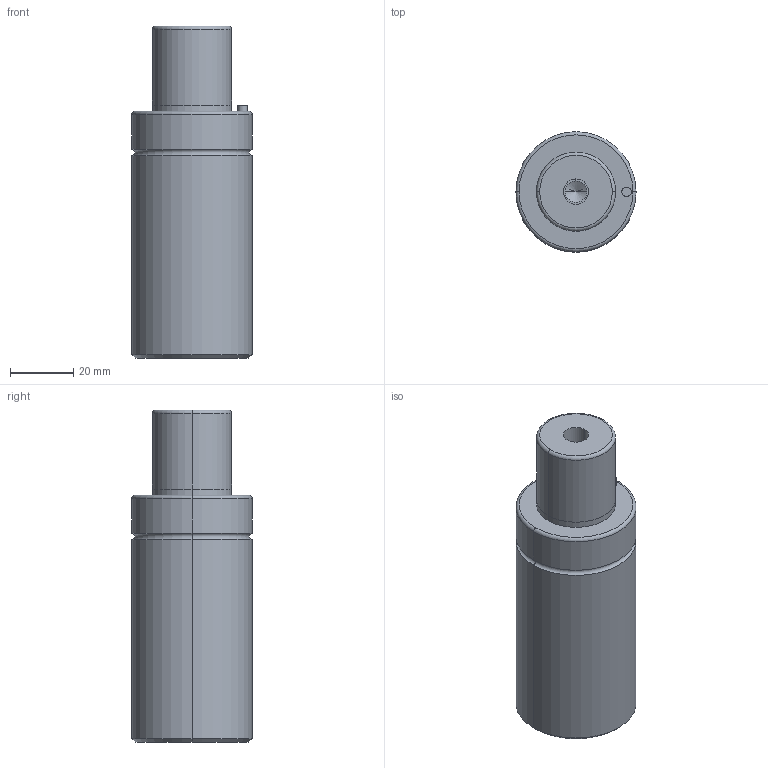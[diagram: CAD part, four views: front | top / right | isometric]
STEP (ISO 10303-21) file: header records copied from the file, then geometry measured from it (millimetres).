
FILE_DESCRIPTION(/* description */ (''),/* implementation_level */ '2;1');
FILE_NAME(/* name */ '3d_gsm38-25_03930_r00.stp',/* time_stamp */ '2011-01-10T14:15:16+09:00',/* author */ ('MISUMI'),/* organization */ (''),/* preprocessor_version */ 'ST-DEVELOPER v11',/* originating_system */ 'UGS - NX 5.0',/* authorisation */ '');
FILE_SCHEMA (('CONFIG_CONTROL_DESIGN'));
Length unit declared in the file: millimetre
Products named in the file (1): 3d_gsm38-25_03930_r00
Bounding box: 38 x 38 x 105 mm (x, y, z)
Volume: 99659.3 mm3; surface area: 14677.8 mm2
Topology: 1 solids, 1 shells, 50 faces, 106 edges, 60 vertices
Faces by surface type: cylinder 26, cone 10, plane 8, torus 6
Entity records: 1382 total; most frequent: DIRECTION 262, CARTESIAN_POINT 209, ORIENTED_EDGE 196, AXIS2_PLACEMENT_3D 113, EDGE_CURVE 98, CIRCLE 62, EDGE_LOOP 60, VERTEX_POINT 60
